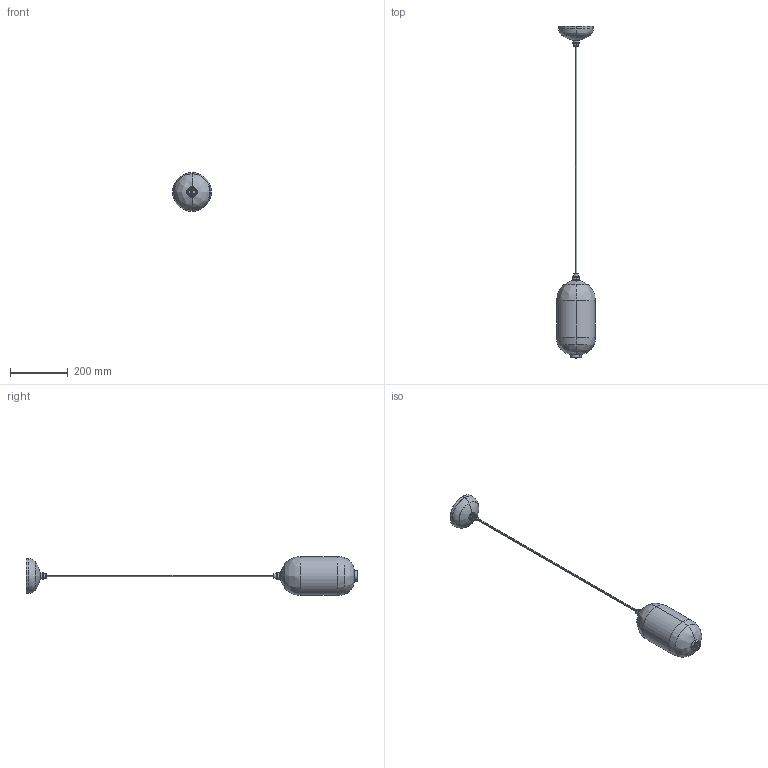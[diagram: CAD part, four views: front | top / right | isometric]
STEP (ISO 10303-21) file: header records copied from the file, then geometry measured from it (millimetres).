
FILE_DESCRIPTION (( 'STEP AP214' ), '1' );
FILE_NAME ('ABALLS T MEDIANA.STEP', '2014-10-14T10:50:45', ( 'Josep Sancho' ), ( '' ), 'SwSTEP 2.0', 'SolidWorks 2010', '' );
FILE_SCHEMA (( 'AUTOMOTIVE_DESIGN' ));
Length unit declared in the file: millimetre
Products named in the file (13): CONJUNTO FLORON T; 013100200105 - PASACABLE POLIETILENO TRANSP. DIAM.11,5X14MM; 026601100000 - ROSQUETA M12-100 X15MM; 054100400119 - TAPON EMBELLECEDOR DIAM.17X10MM M12; 060700500000 - REPULS DIAM.120X60MM; 022605300000 - ARANDELA DIAM.18X2MM POLIETILENO NEUTRO; 021900100101 - ESPARRAGO DIN913 M3X4MM PAVONADO NEGRO; 061700100119 - CILINDRO CUELLO DIAM.36X15MM; CABLE MANGUERA 1M RECTO; 067600400103 - DIFUSOR CRISTAL OPAL BLANCO MATE DIAM.240 TALADRO 30MM; 054100300119 - TAPÓN EMBELLECEDOR DIAM.17X16,5 M12; 052700300000 - CERÁM DIAM.135X270MM; ABALLS T MEDIANA
Assembly tree (12 placements, depth 3):
  ABALLS T MEDIANA
    054100300119 - TAPÓN EMBELLECEDOR DIAM.17X16,5 M12
    CONJUNTO FLORON T
      013100200105 - PASACABLE POLIETILENO TRANSP. DIAM.11,5X14MM
      060700500000 - REPULS DIAM.120X60MM
      026601100000 - ROSQUETA M12-100 X15MM
      054100400119 - TAPON EMBELLECEDOR DIAM.17X10MM M12
    061700100119 - CILINDRO CUELLO DIAM.36X15MM
    067600400103 - DIFUSOR CRISTAL OPAL BLANCO MATE DIAM.240 TALADRO 30MM
    CABLE MANGUERA 1M RECTO
    021900100101 - ESPARRAGO DIN913 M3X4MM PAVONADO NEGRO
    022605300000 - ARANDELA DIAM.18X2MM POLIETILENO NEUTRO
    052700300000 - CERÁM DIAM.135X270MM
Bounding box: 135 x 1150.52 x 135 mm (x, y, z)
Volume: 376004.6 mm3; surface area: 302459.1 mm2
Topology: 10 solids, 10 shells, 183 faces, 394 edges, 240 vertices
Faces by surface type: cylinder 88, bspline 46, plane 39, cone 10
Entity records: 11302 total; most frequent: CARTESIAN_POINT 4594, DIRECTION 952, ORIENTED_EDGE 809, AXIS2_PLACEMENT_3D 413, EDGE_CURVE 406, CIRCLE 257, VERTEX_POINT 248, EDGE_LOOP 231
